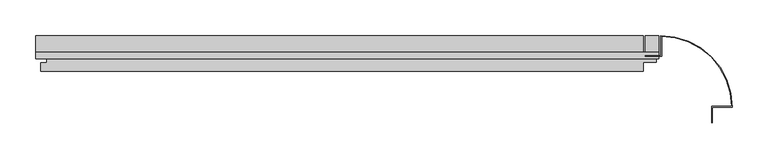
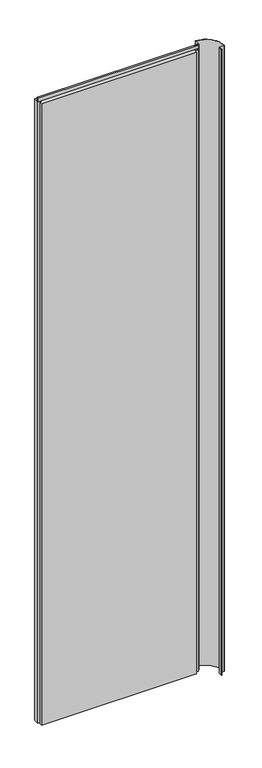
"""IFC4 building model written with IfcOpenShell, lengths in millimetres: plate geometry, Trimo_Qbiss Screen_Normal Panel-VERTICAL : HR - FB."""

import ifcopenshell
import ifcopenshell.guid

model = None  # the IFC model being written
_history = None  # IfcOwnerHistory: only IFC2X3 demands one
_inside = {}  # id of a spatial element -> (the spatial element, [elements in it])
_under = {}  # id of a project, library or spatial element -> (it, [spatial elements below it])
_declared = {}  # id of a project -> (the project, [libraries it declares])
_typed = {}  # id of a type object -> (the type object, [elements of that type])
_made_of = {}  # id of a material, layer set ... -> (it, [elements and type objects made of it])


def new_model(schema):
    """Start an empty IFC model of exactly this schema.

    Asked for "IFC4X3", IfcOpenShell would pick the latest addendum, in which some entities
    have other attributes; the version numbers below select the first issue.
    IFC2X3 requires an IfcOwnerHistory on every rooted entity: one is made here for all.
    """
    global model, _history
    if schema == "IFC4X3":
        model = ifcopenshell.file(schema_version=(4, 3, 0, 0))
    else:
        model = ifcopenshell.file(schema=schema)
    _inside.clear()
    _under.clear()
    _declared.clear()
    _typed.clear()
    _made_of.clear()
    _history = None
    if model.schema == "IFC2X3":
        org = make("IfcOrganization", Name="unknown")
        user = make(
            "IfcPersonAndOrganization",
            ThePerson=make("IfcPerson", FamilyName="unknown"),
            TheOrganization=org,
        )
        app = make(
            "IfcApplication",
            ApplicationDeveloper=org,
            Version="unknown",
            ApplicationFullName="unknown",
            ApplicationIdentifier="unknown",
        )
        _history = make(
            "IfcOwnerHistory",
            OwningUser=user,
            OwningApplication=app,
            ChangeAction="ADDED",
            CreationDate=0,
        )
    return model


def make(cls, **values):
    """One entity of the class cls with the attributes given. An attribute that is None is left unset."""
    return model.create_entity(
        cls, **{name: value for name, value in values.items() if value is not None}
    )


def rooted(cls, **values):
    """An entity with a GlobalId (a new one), such as an element, a storey or a relation."""
    return make(cls, GlobalId=ifcopenshell.guid.new(), OwnerHistory=_history, **values)


def si_unit(unit_type, name, prefix=None):
    """IfcSIUnit, for example si_unit("LENGTHUNIT", "METRE", prefix="MILLI")."""
    return make("IfcSIUnit", UnitType=unit_type, Prefix=prefix, Name=name)


def assignment(units):
    """IfcUnitAssignment: the units of a project."""
    return None if units is None else make("IfcUnitAssignment", Units=units)


def point(xyz):
    """IfcCartesianPoint."""
    return None if xyz is None else make("IfcCartesianPoint", Coordinates=xyz)


def direction(xyz):
    """IfcDirection."""
    return None if xyz is None else make("IfcDirection", DirectionRatios=xyz)


def frame(location, z_axis=None, x_axis=None):
    """IfcAxis2Placement3D, a coordinate frame: its origin and axes. An axis left out is left unset."""
    return make(
        "IfcAxis2Placement3D",
        Location=point(location),
        Axis=direction(z_axis),
        RefDirection=direction(x_axis),
    )


def frame_2d(location, x_axis=None):
    """IfcAxis2Placement2D, a coordinate frame in the plane: its origin and x axis."""
    return make(
        "IfcAxis2Placement2D", Location=point(location), RefDirection=direction(x_axis)
    )


def origin():
    """The frame at (0, 0, 0) with its axes left unset."""
    return frame((0.0, 0.0, 0.0))


def place(relative_to, where):
    """IfcLocalPlacement: puts the frame where relative to a parent placement (None: the world)."""
    return make(
        "IfcLocalPlacement", PlacementRelTo=relative_to, RelativePlacement=where
    )


def context(
    kind, dimensions, precision=None, world=None, true_north=None, identifier=None
):
    """IfcGeometricRepresentationContext, for example the 3D "Model" context."""
    return make(
        "IfcGeometricRepresentationContext",
        ContextIdentifier=identifier,
        ContextType=kind,
        CoordinateSpaceDimension=dimensions,
        Precision=precision,
        WorldCoordinateSystem=world,
        TrueNorth=true_north,
    )


def project(units=None, contexts=None):
    """IfcProject with its units and contexts."""
    return rooted(
        "IfcProject",
        Name="project",
        RepresentationContexts=contexts,
        UnitsInContext=assignment(units),
    )


def spatial(cls, under=None, at=None, **own):
    """A site, building, storey or space (cls), placed at a placement, below another one or the project."""
    s = rooted(cls, ObjectPlacement=at, **own)
    if under is not None:
        _under.setdefault(under.id(), (under, []))[1].append(s)
    return s


def polyline(points):
    """IfcPolyline through the points."""
    return make("IfcPolyline", Points=[point(p) for p in points])


def circle_curve(where, radius):
    """IfcCircle in the frame where."""
    return make("IfcCircle", Position=where, Radius=radius)


def trimmed(basis, trim1, trim2, sense, master):
    """IfcTrimmedCurve: the piece of a basis curve between two trims."""
    return make(
        "IfcTrimmedCurve",
        BasisCurve=basis,
        Trim1=trim1,
        Trim2=trim2,
        SenseAgreement=sense,
        MasterRepresentation=master,
    )


def segment(curve, same_sense, transition):
    """IfcCompositeCurveSegment."""
    return make(
        "IfcCompositeCurveSegment",
        Transition=transition,
        SameSense=same_sense,
        ParentCurve=curve,
    )


def composite_curve(segments, self_intersect=None):
    """IfcCompositeCurve: segments joined end to end."""
    return make("IfcCompositeCurve", Segments=segments, SelfIntersect=self_intersect)


def outline(outer, holes=None, kind="AREA"):
    """IfcArbitraryClosedProfileDef: a profile drawn as a closed curve; with holes, ...WithVoids."""
    if holes is None:
        return make("IfcArbitraryClosedProfileDef", ProfileType=kind, OuterCurve=outer)
    return make(
        "IfcArbitraryProfileDefWithVoids",
        ProfileType=kind,
        OuterCurve=outer,
        InnerCurves=holes,
    )


def extrude(swept, where, along, depth):
    """IfcExtrudedAreaSolid: the profile swept, set in the frame where, extruded along a direction by depth."""
    return make(
        "IfcExtrudedAreaSolid",
        SweptArea=swept,
        Position=where,
        ExtrudedDirection=direction(along),
        Depth=depth,
    )


def shape(context_of_items, identifier, shape_type, items):
    """IfcShapeRepresentation: the items that make up one representation, for example the "Body"."""
    return make(
        "IfcShapeRepresentation",
        ContextOfItems=context_of_items,
        RepresentationIdentifier=identifier,
        RepresentationType=shape_type,
        Items=items,
    )


def source(mapping_origin, context_of_items, identifier, shape_type, items):
    """IfcRepresentationMap: a shape defined once, which mapped items show again and again."""
    return make(
        "IfcRepresentationMap",
        MappingOrigin=mapping_origin,
        MappedRepresentation=shape(context_of_items, identifier, shape_type, items),
    )


def transform(
    local_origin,
    x_axis=None,
    y_axis=None,
    z_axis=None,
    scale=None,
    scale2=None,
    scale3=None,
    uniform=True,
):
    """IfcCartesianTransformationOperator3D, or its non-uniform kind. x_axis, y_axis, z_axis: its Axis1, 2, 3."""
    if uniform:
        return make(
            "IfcCartesianTransformationOperator3D",
            Axis1=direction(x_axis),
            Axis2=direction(y_axis),
            LocalOrigin=point(local_origin),
            Scale=scale,
            Axis3=direction(z_axis),
        )
    return make(
        "IfcCartesianTransformationOperator3DnonUniform",
        Axis1=direction(x_axis),
        Axis2=direction(y_axis),
        LocalOrigin=point(local_origin),
        Scale=scale,
        Axis3=direction(z_axis),
        Scale2=scale2,
        Scale3=scale3,
    )


def mapped(mapping_source, mapping_target):
    """IfcMappedItem: shows the shape of a source again, moved by a transform."""
    return make(
        "IfcMappedItem", MappingSource=mapping_source, MappingTarget=mapping_target
    )


def made_of(thing, what):
    """Note that an element or type object is made of a material, layer set ...; save() writes the relation."""
    if what is not None:
        _made_of.setdefault(what.id(), (what, []))[1].append(thing)
    return thing


def element(
    cls,
    number,
    at=None,
    inside=None,
    cuts=None,
    type_object=None,
    material=None,
    context=None,
    identifier="Body",
    shape_type=None,
    held_by="IfcProductDefinitionShape",
    body=None,
    shapes=None,
    **own,
):
    """One element of the class cls, such as IfcWall. Its Tag is "e" and its number.

    at: its placement. inside: the storey or other place that contains it. cuts: it is an
    opening in that element (IfcRelVoidsElement). A single representation is given by context,
    identifier, shape_type and body (its items); several are given by shapes. held_by: the class
    of the entity that holds the representations. save() writes the other relations.
    """
    e = rooted(cls, Tag="e%d" % number, ObjectPlacement=at, **own)
    if body is not None:
        shapes = [shape(context, identifier, shape_type, body)]
    if shapes is not None:
        e.Representation = make(held_by, Representations=shapes)
    if inside is not None:
        _inside.setdefault(inside.id(), (inside, []))[1].append(e)
    if cuts is not None:
        rooted(
            "IfcRelVoidsElement", RelatingBuildingElement=cuts, RelatedOpeningElement=e
        )
    if type_object is not None:
        _typed.setdefault(type_object.id(), (type_object, []))[1].append(e)
    return made_of(e, material)


def aggregate(whole, parts):
    """IfcRelAggregates: a whole, such as a stair, and the parts it consists of."""
    return rooted("IfcRelAggregates", RelatingObject=whole, RelatedObjects=parts)


def save(model, path):
    """Write the relations noted so far, then the file.

    IfcRelAggregates (storeys below a building ...), IfcRelContainedInSpatialStructure (elements
    in a storey), IfcRelDefinesByType, IfcRelAssociatesMaterial and IfcRelDeclares: one each for
    every whole, place, type object, material and project.
    """
    for whole, parts in _under.values():
        aggregate(whole, parts)
    for where, things in _inside.values():
        rooted(
            "IfcRelContainedInSpatialStructure",
            RelatedElements=things,
            RelatingStructure=where,
        )
    for kind, things in _typed.values():
        rooted("IfcRelDefinesByType", RelatedObjects=things, RelatingType=kind)
    for what, things in _made_of.values():
        rooted("IfcRelAssociatesMaterial", RelatedObjects=things, RelatingMaterial=what)
    for by, libraries in _declared.values():
        rooted("IfcRelDeclares", RelatingContext=by, RelatedDefinitions=libraries)
    model.write(path)


def plate_f77fe287(model_context):
    return source(origin(), model_context, "Body", "SweptSolid", [
        extrude(outline(polyline([(448.0, 97.0), (429.0, 97.0), (429.0, 126.0), (448.0, 126.0), (448.0, 97.0)])), frame((0.0, 0.0, 12.5), z_axis=(0.0, 0.0, 1.0), x_axis=(1.0, 0.0, 0.0)), (0.0, 0.0, 1.0), 3575.0),
        extrude(outline(polyline([(-425.0, 93.9), (-425.0, 102.6), (448.0, 102.6), (448.0, 93.9), (-425.0, 93.9)])), frame((0.0, 0.0, 3590.5), z_axis=(0.0, 0.0, 1.0), x_axis=(1.0, 0.0, 0.0)), (0.0, 0.0, 1.0), 19.0),
        extrude(outline(polyline([(426.0, 97.0), (444.5, 97.0), (444.5, 89.0), (426.0, 89.0), (426.0, 76.0), (-418.0, 76.0), (-418.0, 88.0), (-409.5, 88.0), (-409.5, 98.0), (-425.0, 98.0), (-425.0, 126.0), (426.0, 126.0), (426.0, 97.0)])), frame((0.0, 0.0, 12.5), z_axis=(0.0, 0.0, 1.0), x_axis=(1.0, 0.0, 0.0)), (0.0, 0.0, 1.0), 3575.0),
        extrude(outline(composite_curve([segment(polyline([(451.0, 97.8), (451.0, 126.0)]), True, "CONTINUOUS"), segment(trimmed(circle_curve(frame_2d((451.0, 26.0)), 100.0), [point((451.0, 126.0))], [point((551.0, 26.0))], False, "CARTESIAN"), True, "CONTINUOUS"), segment(polyline([(551.0, 26.0), (522.8, 26.0), (522.8, 4.0), (522.0, 4.0), (522.0, 26.8), (550.1967741, 26.8)]), True, "CONTINUOUS"), segment(trimmed(circle_curve(frame_2d((451.0, 26.0)), 99.2), [point((550.1967741, 26.8))], [point((451.8, 125.1967741))], True, "CARTESIAN"), True, "CONTINUOUS"), segment(polyline([(451.8, 125.1967741), (451.8, 97.0), (429.0, 97.0), (429.0, 97.8), (451.0, 97.8)]), True, "CONTINUOUS")], self_intersect=False)), frame((0.0, 0.0, 12.5), z_axis=(0.0, 0.0, 1.0), x_axis=(1.0, 0.0, 0.0)), (0.0, 0.0, 1.0), 3600.0),
    ])


if __name__ == "__main__":
    model = new_model("IFC4")
    model_context = context("Model", 3, world=origin())
    ifc_project = project(units=[si_unit("LENGTHUNIT", "METRE", prefix="MILLI")], contexts=[model_context])
    site = spatial("IfcSite", under=ifc_project)
    building = spatial("IfcBuilding", under=site)
    placement = place(None, origin())
    plate_shape = plate_f77fe287(model_context)
    element("IfcPlate", 1, ObjectType="Trimo_Qbiss Screen_Normal Panel-VERTICAL : HR - FB", at=placement, inside=building, context=model_context, shape_type="MappedRepresentation", body=[
        mapped(plate_shape, transform((0.0, 0.0, 0.0), x_axis=(1.0, 0.0, 0.0), y_axis=(0.0, 1.0, 0.0), z_axis=(0.0, 0.0, 1.0))),
    ])
    save(model, "model.ifc")
